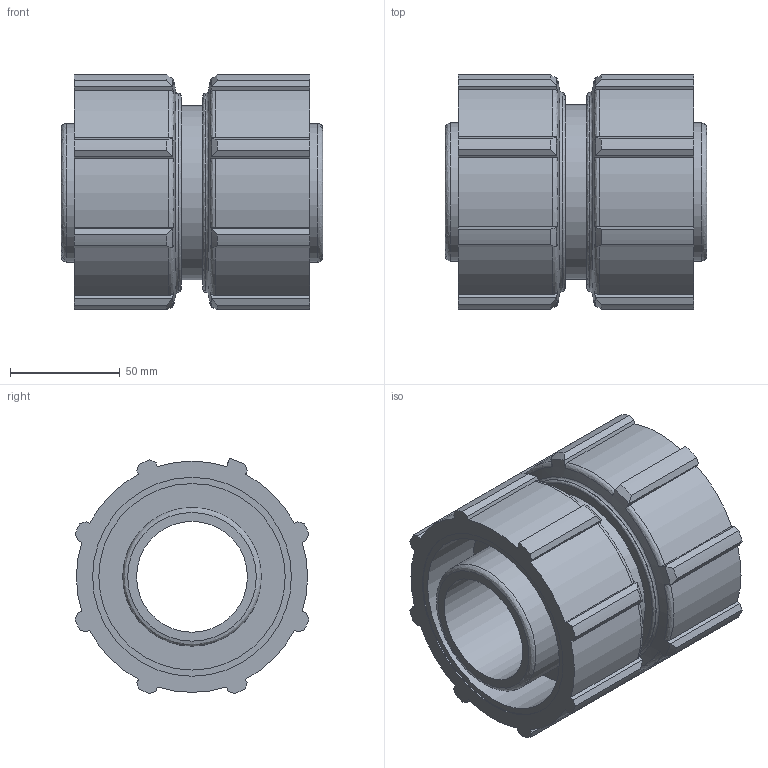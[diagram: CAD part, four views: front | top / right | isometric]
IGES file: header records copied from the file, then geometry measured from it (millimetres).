
Global section: file name: 079400063__0794060630A.ipt; native system: Autodesk Inventor 2015; preprocessor: unknown; author: KIM; date: 20180731.142055; units: millimetre
Bounding box: 119 x 106.32 x 107.05 mm (x, y, z)
Volume: 549094.2 mm3; surface area: 107230.2 mm2
Topology: 1 solids, 1 shells, 154 faces, 446 edges, 302 vertices
Faces by surface type: plane 72, cylinder 37, revolution 27, cone 18
Full cylindrical faces by diameter (mm): 63 x2, 79.1 x1, 90.4 x2
